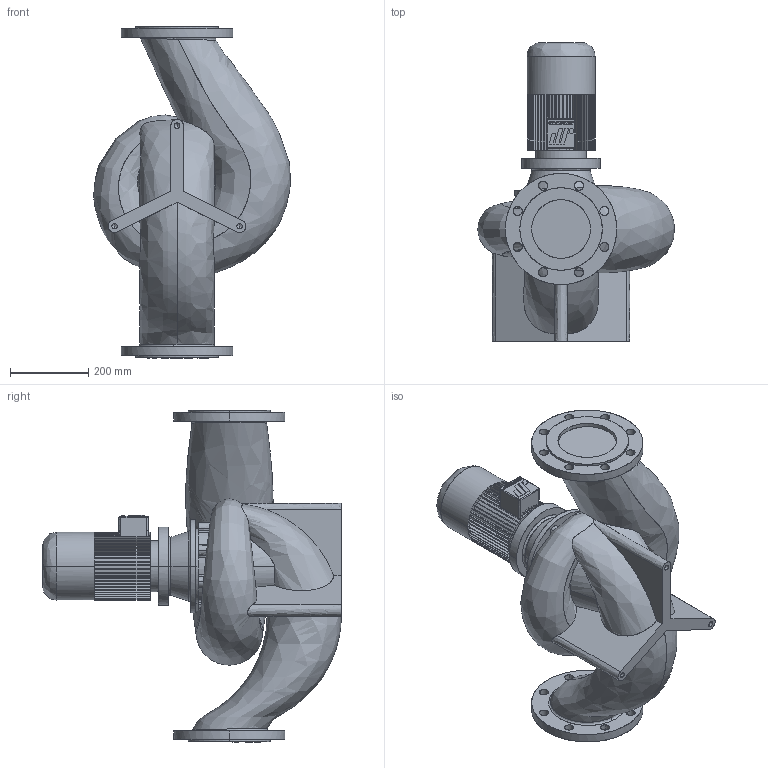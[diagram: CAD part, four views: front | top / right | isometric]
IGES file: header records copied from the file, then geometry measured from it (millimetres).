
Start section: CombiLine
Global section: file name: CLB_150-125_IEC90S_ND10.igs; native system:  By UGS Corp.; preprocessor: XPlus GENERIC/IGES 3.0; author: Stageplaats; organization: Johnson Pump Water B.V.; date: 20070718.092428; units: millimetre
Bounding box: 503.93 x 765 x 850 mm (x, y, z)
Surface area: 1773683.9 mm2 (no closed solid volume)
Topology: 0 solids, 0 shells, 549 faces, 3335 edges, 3329 vertices
Faces by surface type: bspline 549
